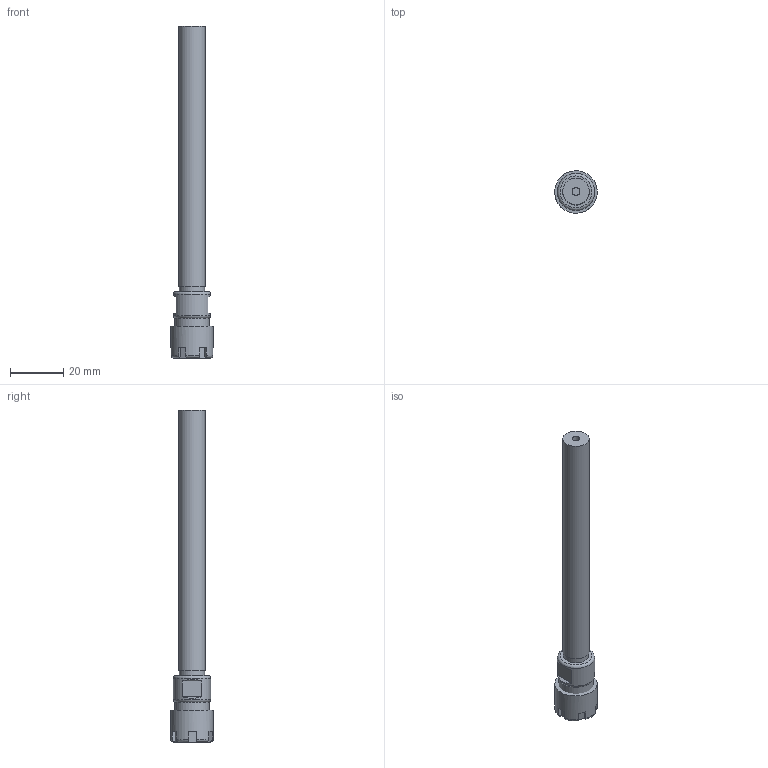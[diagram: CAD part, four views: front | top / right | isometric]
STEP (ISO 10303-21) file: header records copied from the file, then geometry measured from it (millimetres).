
FILE_DESCRIPTION(/* description */ (''),/* implementation_level */ '2;1');
FILE_NAME(/* name */ 'C10-ER11M-100L.stp',/* time_stamp */ '2025-09-04T11:50:49+03:00',/* author */ ('User'),/* organization */ (''),/* preprocessor_version */ 'ST-DEVELOPER v19.2',/* originating_system */ 'Autodesk Inventor 2024',/* authorisation */ '');
FILE_SCHEMA (('AUTOMOTIVE_DESIGN { 1 0 10303 214 3 1 1 }'));
Length unit declared in the file: millimetre
Products named in the file (3): C10-ER11M-100L; C10-ER11M-100L_1; er11-nut
Assembly tree (2 placements, depth 2):
  C10-ER11M-100L
    C10-ER11M-100L_1
    er11-nut
Bounding box: 15.99 x 15.99 x 125 mm (x, y, z)
Volume: 10627.9 mm3; surface area: 6083 mm2
Topology: 2 solids, 2 shells, 58 faces, 138 edges, 91 vertices
Faces by surface type: plane 39, torus 9, cylinder 9, cone 1
Full cylindrical faces by diameter (mm): 3 x1, 7.627 x1, 8.5 x1, 9.5 x1, 10 x1, 12.2 x1, 13 x1, 14 x1, 16 x1
Entity records: 1910 total; most frequent: CARTESIAN_POINT 400, DIRECTION 300, ORIENTED_EDGE 276, EDGE_CURVE 138, AXIS2_PLACEMENT_3D 111, VERTEX_POINT 91, LINE 78, VECTOR 78
